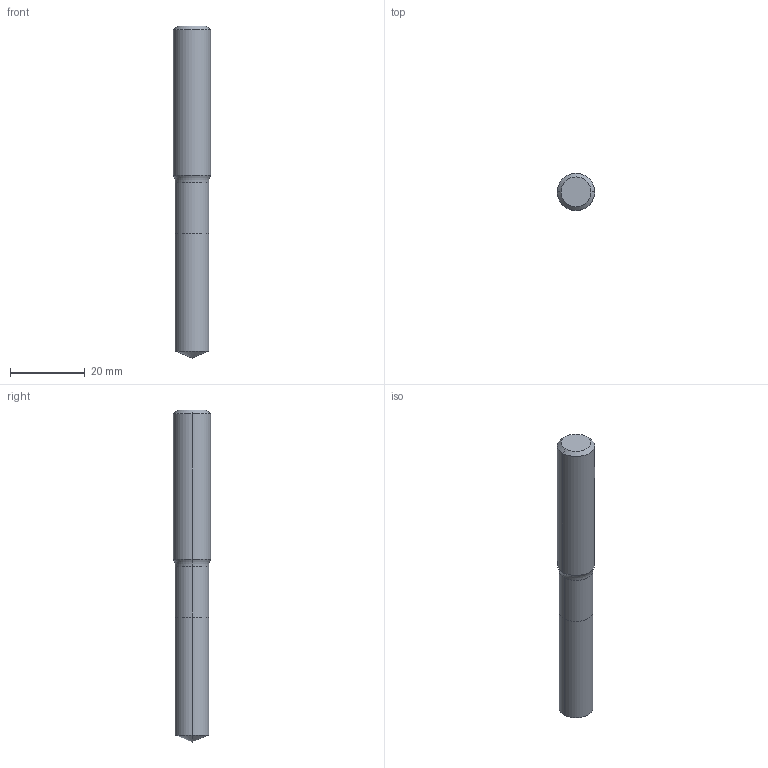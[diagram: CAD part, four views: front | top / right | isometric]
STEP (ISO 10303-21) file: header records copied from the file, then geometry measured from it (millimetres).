
FILE_DESCRIPTION (( 'STEP AP214' ), '1' );
FILE_NAME ('810.090.00_3D-model.step', '2022-02-23T22:25:46', ( '' ), ( '' ), 'SwSTEP 2.0', 'SolidWorks 2020', '' );
FILE_SCHEMA (( 'AUTOMOTIVE_DESIGN' ));
Length unit declared in the file: millimetre
Products named in the file (3): CUT-3D^Baugr120; 810.090.00_3D-model; NOCUT-3D^Baugr120
Assembly tree (2 placements, depth 2):
  810.090.00_3D-model
    CUT-3D^Baugr120
    NOCUT-3D^Baugr120
Bounding box: 10 x 10 x 89 mm (x, y, z)
Volume: 6175.3 mm3; surface area: 2849.1 mm2
Topology: 2 solids, 2 shells, 15 faces, 28 edges, 15 vertices
Faces by surface type: cylinder 6, cone 4, plane 3, torus 2
Entity records: 482 total; most frequent: DIRECTION 88, CARTESIAN_POINT 64, ORIENTED_EDGE 52, AXIS2_PLACEMENT_3D 39, EDGE_CURVE 26, CIRCLE 16, ADVANCED_FACE 15, VERTEX_POINT 15
